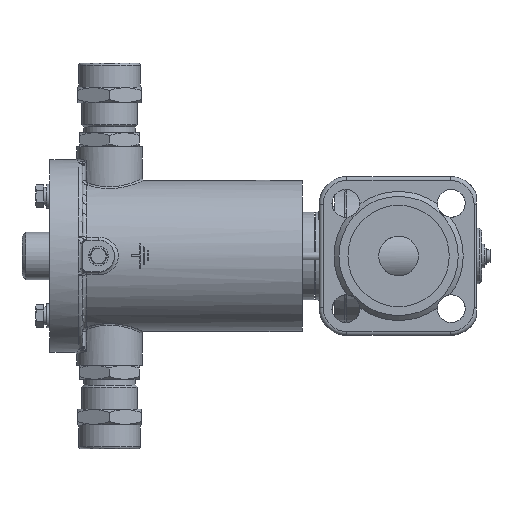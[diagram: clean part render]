
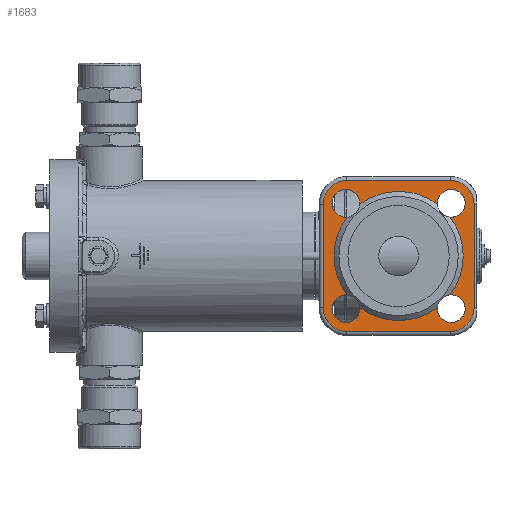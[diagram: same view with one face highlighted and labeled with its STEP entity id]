
A CAD part, left-side view. The second image highlights one B-rep face of the part: STEP entity #1683.
In plain terms, the highlighted planar face has unit normal (-1, 0, 0).
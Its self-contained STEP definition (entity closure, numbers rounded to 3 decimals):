
#1683=ADVANCED_FACE('',(#19198,#19200),#19202,.T.);
#19198=FACE_BOUND('',#19199,.T.);
#19199=EDGE_LOOP('',(#29841,#29842,#29843,#29844,#29845,#29846,#29847,#29848,#29849,
#29850,#29851,#29852,#29853));
#19200=FACE_OUTER_BOUND('',#19201,.T.);
#19201=EDGE_LOOP('',(#29854,#29855,#29856,#29857,#29858,#29859,#29860,#29861));
#19202=PLANE('',#19203);
#19203=AXIS2_PLACEMENT_3D('',#19204,#19205,#19206);
#19204=CARTESIAN_POINT('',(-63.5,0.,0.));
#19205=DIRECTION('',(-1.,0.,0.));
#19206=DIRECTION('',(0.,1.,0.));
#29841=ORIENTED_EDGE('',*,*,#38766,.T.);
#29842=ORIENTED_EDGE('',*,*,#38768,.T.);
#29843=ORIENTED_EDGE('',*,*,#38832,.T.);
#29844=ORIENTED_EDGE('',*,*,#38754,.T.);
#29845=ORIENTED_EDGE('',*,*,#38756,.T.);
#29846=ORIENTED_EDGE('',*,*,#38833,.T.);
#29847=ORIENTED_EDGE('',*,*,#38758,.T.);
#29848=ORIENTED_EDGE('',*,*,#38760,.T.);
#29849=ORIENTED_EDGE('',*,*,#38834,.T.);
#29850=ORIENTED_EDGE('',*,*,#38835,.T.);
#29851=ORIENTED_EDGE('',*,*,#38762,.T.);
#29852=ORIENTED_EDGE('',*,*,#38764,.T.);
#29853=ORIENTED_EDGE('',*,*,#38836,.T.);
#29854=ORIENTED_EDGE('',*,*,#38837,.T.);
#29855=ORIENTED_EDGE('',*,*,#38838,.T.);
#29856=ORIENTED_EDGE('',*,*,#38839,.T.);
#29857=ORIENTED_EDGE('',*,*,#38840,.T.);
#29858=ORIENTED_EDGE('',*,*,#38841,.T.);
#29859=ORIENTED_EDGE('',*,*,#38842,.T.);
#29860=ORIENTED_EDGE('',*,*,#38843,.T.);
#29861=ORIENTED_EDGE('',*,*,#38844,.T.);
#38754=EDGE_CURVE('',#46310,#46308,#46311,.F.);
#38756=EDGE_CURVE('',#46308,#46312,#46314,.F.);
#38758=EDGE_CURVE('',#46317,#46315,#46318,.F.);
#38760=EDGE_CURVE('',#46315,#46319,#46321,.F.);
#38762=EDGE_CURVE('',#46324,#46322,#46325,.F.);
#38764=EDGE_CURVE('',#46322,#46326,#46328,.F.);
#38766=EDGE_CURVE('',#46331,#46329,#46332,.F.);
#38768=EDGE_CURVE('',#46329,#46333,#46335,.F.);
#38832=EDGE_CURVE('',#46333,#46310,#46435,.T.);
#38833=EDGE_CURVE('',#46312,#46317,#46436,.T.);
#38834=EDGE_CURVE('',#46319,#46437,#46438,.T.);
#38835=EDGE_CURVE('',#46437,#46324,#46439,.T.);
#38836=EDGE_CURVE('',#46326,#46331,#46440,.T.);
#38837=EDGE_CURVE('',#46441,#46442,#46443,.F.);
#38838=EDGE_CURVE('',#46442,#46444,#46445,.T.);
#38839=EDGE_CURVE('',#46444,#46446,#46447,.F.);
#38840=EDGE_CURVE('',#46446,#46448,#46449,.T.);
#38841=EDGE_CURVE('',#46448,#46450,#46451,.F.);
#38842=EDGE_CURVE('',#46450,#46452,#46453,.T.);
#38843=EDGE_CURVE('',#46452,#46454,#46455,.F.);
#38844=EDGE_CURVE('',#46454,#46441,#46456,.T.);
#46308=VERTEX_POINT('',#72680);
#46310=VERTEX_POINT('',#72684);
#46311=CIRCLE('',#72685,7.);
#46312=VERTEX_POINT('',#72689);
#46314=CIRCLE('',#72788,7.);
#46315=VERTEX_POINT('',#72792);
#46317=VERTEX_POINT('',#72796);
#46318=CIRCLE('',#72797,7.);
#46319=VERTEX_POINT('',#72801);
#46321=CIRCLE('',#72900,7.);
#46322=VERTEX_POINT('',#72904);
#46324=VERTEX_POINT('',#72908);
#46325=CIRCLE('',#72909,7.);
#46326=VERTEX_POINT('',#72913);
#46328=CIRCLE('',#73012,7.);
#46329=VERTEX_POINT('',#73016);
#46331=VERTEX_POINT('',#73020);
#46332=CIRCLE('',#73021,7.);
#46333=VERTEX_POINT('',#73025);
#46335=CIRCLE('',#73124,7.);
#46435=CIRCLE('',#73617,32.5);
#46436=CIRCLE('',#73621,32.5);
#46437=VERTEX_POINT('',#73625);
#46438=CIRCLE('',#73626,32.5);
#46439=CIRCLE('',#73630,32.5);
#46440=CIRCLE('',#73634,32.5);
#46441=VERTEX_POINT('',#73638);
#46442=VERTEX_POINT('',#73639);
#46443=LINE('',#73640,#73641);
#46444=VERTEX_POINT('',#73643);
#46445=CIRCLE('',#73644,12.);
#46446=VERTEX_POINT('',#73648);
#46447=LINE('',#73649,#73650);
#46448=VERTEX_POINT('',#73652);
#46449=CIRCLE('',#73653,12.);
#46450=VERTEX_POINT('',#73657);
#46451=LINE('',#73658,#73659);
#46452=VERTEX_POINT('',#73661);
#46453=CIRCLE('',#73662,12.);
#46454=VERTEX_POINT('',#73666);
#46455=LINE('',#73667,#73668);
#46456=CIRCLE('',#73670,12.);
#72680=CARTESIAN_POINT('',(-63.5,-26.517,-33.517));
#72684=CARTESIAN_POINT('',(-63.5,-25.972,-19.538));
#72685=AXIS2_PLACEMENT_3D('',#72686,#72687,#72688);
#72686=CARTESIAN_POINT('',(-63.5,-26.517,-26.517));
#72687=DIRECTION('',(-1.,0.,-0.));
#72688=DIRECTION('',(0.,0.,-1.));
#72689=CARTESIAN_POINT('',(-63.5,-19.538,-25.972));
#72788=AXIS2_PLACEMENT_3D('',#72789,#72790,#72791);
#72789=CARTESIAN_POINT('',(-63.5,-26.517,-26.517));
#72790=DIRECTION('',(-1.,0.,-0.));
#72791=DIRECTION('',(0.,0.997,0.078));
#72792=CARTESIAN_POINT('',(-63.5,26.517,-33.517));
#72796=CARTESIAN_POINT('',(-63.5,19.538,-25.972));
#72797=AXIS2_PLACEMENT_3D('',#72798,#72799,#72800);
#72798=CARTESIAN_POINT('',(-63.5,26.517,-26.517));
#72799=DIRECTION('',(-1.,0.,-0.));
#72800=DIRECTION('',(0.,0.,-1.));
#72801=CARTESIAN_POINT('',(-63.5,25.972,-19.538));
#72900=AXIS2_PLACEMENT_3D('',#72901,#72902,#72903);
#72901=CARTESIAN_POINT('',(-63.5,26.517,-26.517));
#72902=DIRECTION('',(-1.,0.,-0.));
#72903=DIRECTION('',(0.,-0.078,0.997));
#72904=CARTESIAN_POINT('',(-63.5,26.517,19.517));
#72908=CARTESIAN_POINT('',(-63.5,25.972,19.538));
#72909=AXIS2_PLACEMENT_3D('',#72910,#72911,#72912);
#72910=CARTESIAN_POINT('',(-63.5,26.517,26.517));
#72911=DIRECTION('',(-1.,0.,-0.));
#72912=DIRECTION('',(0.,0.,-1.));
#72913=CARTESIAN_POINT('',(-63.5,19.538,25.972));
#73012=AXIS2_PLACEMENT_3D('',#73013,#73014,#73015);
#73013=CARTESIAN_POINT('',(-63.5,26.517,26.517));
#73014=DIRECTION('',(-1.,0.,-0.));
#73015=DIRECTION('',(0.,-0.997,-0.078));
#73016=CARTESIAN_POINT('',(-63.5,-26.517,19.517));
#73020=CARTESIAN_POINT('',(-63.5,-19.538,25.972));
#73021=AXIS2_PLACEMENT_3D('',#73022,#73023,#73024);
#73022=CARTESIAN_POINT('',(-63.5,-26.517,26.517));
#73023=DIRECTION('',(-1.,0.,-0.));
#73024=DIRECTION('',(0.,0.,-1.));
#73025=CARTESIAN_POINT('',(-63.5,-25.972,19.538));
#73124=AXIS2_PLACEMENT_3D('',#73125,#73126,#73127);
#73125=CARTESIAN_POINT('',(-63.5,-26.517,26.517));
#73126=DIRECTION('',(-1.,0.,-0.));
#73127=DIRECTION('',(0.,0.078,-0.997));
#73617=AXIS2_PLACEMENT_3D('',#73618,#73619,#73620);
#73618=CARTESIAN_POINT('',(-63.5,0.,0.));
#73619=DIRECTION('',(1.,0.,0.));
#73620=DIRECTION('',(0.,-0.799,0.601));
#73621=AXIS2_PLACEMENT_3D('',#73622,#73623,#73624);
#73622=CARTESIAN_POINT('',(-63.5,0.,0.));
#73623=DIRECTION('',(1.,0.,0.));
#73624=DIRECTION('',(0.,-0.601,-0.799));
#73625=CARTESIAN_POINT('',(-63.5,32.5,0.));
#73626=AXIS2_PLACEMENT_3D('',#73627,#73628,#73629);
#73627=CARTESIAN_POINT('',(-63.5,0.,0.));
#73628=DIRECTION('',(1.,0.,0.));
#73629=DIRECTION('',(0.,0.799,-0.601));
#73630=AXIS2_PLACEMENT_3D('',#73631,#73632,#73633);
#73631=CARTESIAN_POINT('',(-63.5,0.,0.));
#73632=DIRECTION('',(1.,0.,0.));
#73633=DIRECTION('',(0.,1.,0.));
#73634=AXIS2_PLACEMENT_3D('',#73635,#73636,#73637);
#73635=CARTESIAN_POINT('',(-63.5,0.,0.));
#73636=DIRECTION('',(1.,0.,0.));
#73637=DIRECTION('',(0.,0.601,0.799));
#73638=CARTESIAN_POINT('',(-63.5,26.,-38.));
#73639=CARTESIAN_POINT('',(-63.5,-26.,-38.));
#73640=CARTESIAN_POINT('',(-63.5,-26.,-38.));
#73641=VECTOR('',#73642,1.);
#73642=DIRECTION('',(0.,1.,0.));
#73643=CARTESIAN_POINT('',(-63.5,-38.,-26.));
#73644=AXIS2_PLACEMENT_3D('',#73645,#73646,#73647);
#73645=CARTESIAN_POINT('',(-63.5,-26.,-26.));
#73646=DIRECTION('',(-1.,0.,-0.));
#73647=DIRECTION('',(0.,0.,-1.));
#73648=CARTESIAN_POINT('',(-63.5,-38.,26.));
#73649=CARTESIAN_POINT('',(-63.5,-38.,26.));
#73650=VECTOR('',#73651,1.);
#73651=DIRECTION('',(0.,0.,-1.));
#73652=CARTESIAN_POINT('',(-63.5,-26.,38.));
#73653=AXIS2_PLACEMENT_3D('',#73654,#73655,#73656);
#73654=CARTESIAN_POINT('',(-63.5,-26.,26.));
#73655=DIRECTION('',(-1.,-0.,0.));
#73656=DIRECTION('',(0.,-1.,0.));
#73657=CARTESIAN_POINT('',(-63.5,26.,38.));
#73658=CARTESIAN_POINT('',(-63.5,26.,38.));
#73659=VECTOR('',#73660,1.);
#73660=DIRECTION('',(0.,-1.,0.));
#73661=CARTESIAN_POINT('',(-63.5,38.,26.));
#73662=AXIS2_PLACEMENT_3D('',#73663,#73664,#73665);
#73663=CARTESIAN_POINT('',(-63.5,26.,26.));
#73664=DIRECTION('',(-1.,0.,0.));
#73665=DIRECTION('',(0.,0.,1.));
#73666=CARTESIAN_POINT('',(-63.5,38.,-26.));
#73667=CARTESIAN_POINT('',(-63.5,38.,-26.));
#73668=VECTOR('',#73669,1.);
#73669=DIRECTION('',(0.,0.,1.));
#73670=AXIS2_PLACEMENT_3D('',#73671,#73672,#73673);
#73671=CARTESIAN_POINT('',(-63.5,26.,-26.));
#73672=DIRECTION('',(-1.,0.,0.));
#73673=DIRECTION('',(0.,1.,0.));
